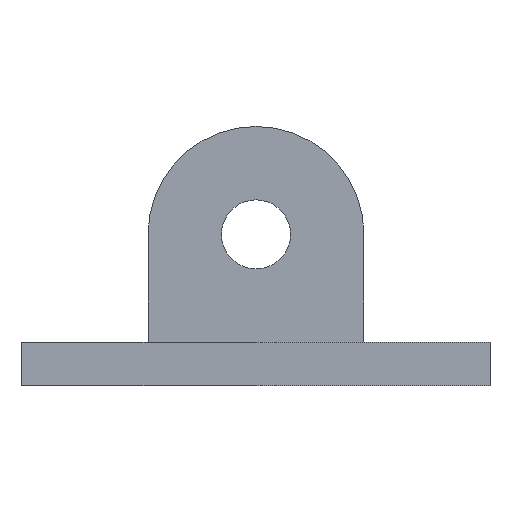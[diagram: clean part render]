
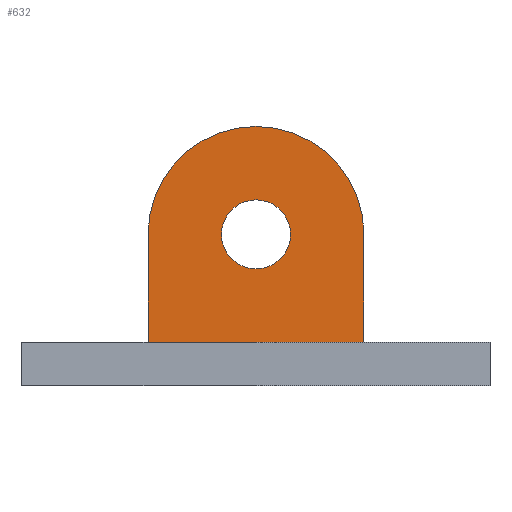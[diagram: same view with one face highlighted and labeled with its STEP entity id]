
A CAD part, front view. The second image highlights one B-rep face of the part: STEP entity #632.
In plain terms, the highlighted planar face has unit normal (0, -1, 0).
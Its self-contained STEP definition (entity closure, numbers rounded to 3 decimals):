
#23 = VECTOR ( 'NONE', #860, 1000. ) ;
#27 = LINE ( 'NONE', #853, #23 ) ;
#37 = VERTEX_POINT ( 'NONE', #255 ) ;
#39 = DIRECTION ( 'NONE',  ( 0., 1., 0. ) ) ;
#58 = CIRCLE ( 'NONE', #828, 12.5 ) ;
#71 = DIRECTION ( 'NONE',  ( 0., 0., 1. ) ) ;
#79 = CIRCLE ( 'NONE', #503, 4. ) ;
#106 = EDGE_CURVE ( 'NONE', #629, #465, #58, .T. ) ;
#110 = ORIENTED_EDGE ( 'NONE', *, *, #964, .F. ) ;
#124 = PLANE ( 'NONE',  #373 ) ;
#127 = AXIS2_PLACEMENT_3D ( 'NONE', #1013, #1018, #604 ) ;
#154 = CARTESIAN_POINT ( 'NONE',  ( 130.888, -16.5, 5. ) ) ;
#212 = CARTESIAN_POINT ( 'NONE',  ( 130.888, -16.5, 17.5 ) ) ;
#242 = EDGE_CURVE ( 'NONE', #281, #629, #542, .T. ) ;
#255 = CARTESIAN_POINT ( 'NONE',  ( 105.888, -16.5, 5. ) ) ;
#256 = CARTESIAN_POINT ( 'NONE',  ( 118.388, -16.5, 13.5 ) ) ;
#258 = DIRECTION ( 'NONE',  ( 0., -1., 0. ) ) ;
#281 = VERTEX_POINT ( 'NONE', #212 ) ;
#326 = CARTESIAN_POINT ( 'NONE',  ( 118.388, -16.5, 17.5 ) ) ;
#347 = ORIENTED_EDGE ( 'NONE', *, *, #868, .T. ) ;
#348 = DIRECTION ( 'NONE',  ( 0., -1., 0. ) ) ;
#360 = EDGE_CURVE ( 'NONE', #894, #281, #670, .T. ) ;
#373 = AXIS2_PLACEMENT_3D ( 'NONE', #805, #39, #976 ) ;
#377 = FACE_OUTER_BOUND ( 'NONE', #418, .T. ) ;
#387 = FACE_BOUND ( 'NONE', #595, .T. ) ;
#399 = DIRECTION ( 'NONE',  ( 0., 0., -1. ) ) ;
#418 = EDGE_LOOP ( 'NONE', ( #721, #911, #347, #960, #657 ) ) ;
#442 = CARTESIAN_POINT ( 'NONE',  ( 118.388, -16.5, 17.5 ) ) ;
#450 = VECTOR ( 'NONE', #71, 1000. ) ;
#465 = VERTEX_POINT ( 'NONE', #745 ) ;
#478 = EDGE_CURVE ( 'NONE', #568, #529, #79, .T. ) ;
#500 = VECTOR ( 'NONE', #915, 1000. ) ;
#503 = AXIS2_PLACEMENT_3D ( 'NONE', #326, #923, #399 ) ;
#529 = VERTEX_POINT ( 'NONE', #682 ) ;
#542 = CIRCLE ( 'NONE', #127, 12.5 ) ;
#568 = VERTEX_POINT ( 'NONE', #256 ) ;
#595 = EDGE_LOOP ( 'NONE', ( #110, #611 ) ) ;
#604 = DIRECTION ( 'NONE',  ( 0., 0., -1. ) ) ;
#611 = ORIENTED_EDGE ( 'NONE', *, *, #478, .F. ) ;
#629 = VERTEX_POINT ( 'NONE', #820 ) ;
#632 = ADVANCED_FACE ( 'NONE', ( #377, #387 ), #124, .F. ) ;
#639 = CIRCLE ( 'NONE', #765, 4. ) ;
#657 = ORIENTED_EDGE ( 'NONE', *, *, #360, .T. ) ;
#670 = LINE ( 'NONE', #674, #450 ) ;
#674 = CARTESIAN_POINT ( 'NONE',  ( 130.888, -16.5, 17.5 ) ) ;
#682 = CARTESIAN_POINT ( 'NONE',  ( 118.388, -16.5, 21.5 ) ) ;
#721 = ORIENTED_EDGE ( 'NONE', *, *, #242, .T. ) ;
#745 = CARTESIAN_POINT ( 'NONE',  ( 105.888, -16.5, 17.5 ) ) ;
#765 = AXIS2_PLACEMENT_3D ( 'NONE', #931, #258, #949 ) ;
#772 = DIRECTION ( 'NONE',  ( 0., 0., -1. ) ) ;
#805 = CARTESIAN_POINT ( 'NONE',  ( 118.388, -16.5, 17.5 ) ) ;
#820 = CARTESIAN_POINT ( 'NONE',  ( 118.388, -16.5, 30. ) ) ;
#828 = AXIS2_PLACEMENT_3D ( 'NONE', #442, #348, #772 ) ;
#853 = CARTESIAN_POINT ( 'NONE',  ( 130.888, -16.5, 5. ) ) ;
#860 = DIRECTION ( 'NONE',  ( 1., 0., 0. ) ) ;
#868 = EDGE_CURVE ( 'NONE', #465, #37, #995, .T. ) ;
#894 = VERTEX_POINT ( 'NONE', #154 ) ;
#911 = ORIENTED_EDGE ( 'NONE', *, *, #106, .T. ) ;
#915 = DIRECTION ( 'NONE',  ( 0., 0., -1. ) ) ;
#923 = DIRECTION ( 'NONE',  ( 0., -1., 0. ) ) ;
#931 = CARTESIAN_POINT ( 'NONE',  ( 118.388, -16.5, 17.5 ) ) ;
#949 = DIRECTION ( 'NONE',  ( 0., 0., -1. ) ) ;
#952 = EDGE_CURVE ( 'NONE', #37, #894, #27, .T. ) ;
#960 = ORIENTED_EDGE ( 'NONE', *, *, #952, .T. ) ;
#964 = EDGE_CURVE ( 'NONE', #529, #568, #639, .T. ) ;
#976 = DIRECTION ( 'NONE',  ( 0., 0., -1. ) ) ;
#977 = CARTESIAN_POINT ( 'NONE',  ( 105.888, -16.5, 5. ) ) ;
#995 = LINE ( 'NONE', #977, #500 ) ;
#1013 = CARTESIAN_POINT ( 'NONE',  ( 118.388, -16.5, 17.5 ) ) ;
#1018 = DIRECTION ( 'NONE',  ( 0., -1., 0. ) ) ;
